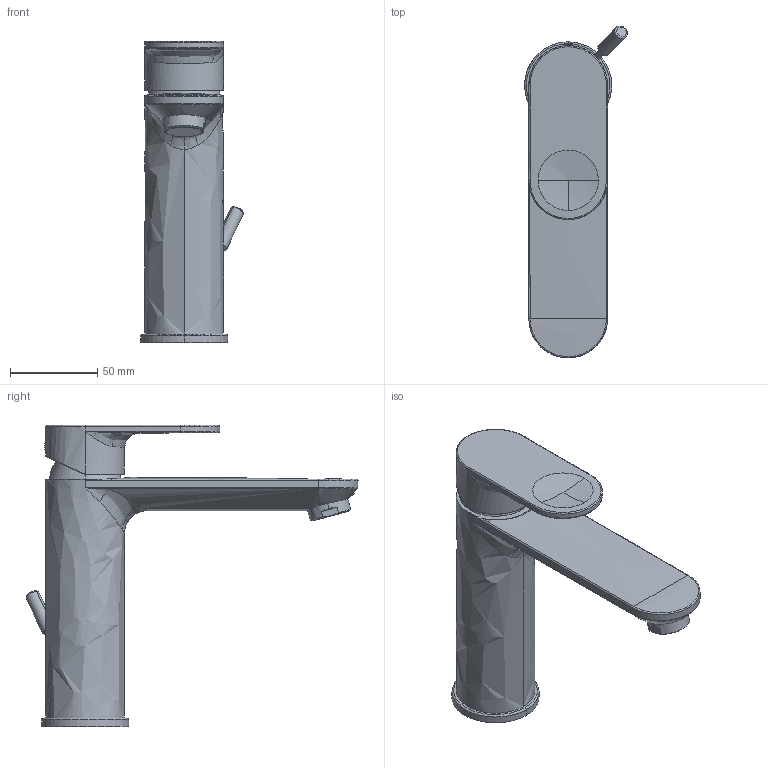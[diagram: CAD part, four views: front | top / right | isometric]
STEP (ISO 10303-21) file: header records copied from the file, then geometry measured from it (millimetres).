
FILE_DESCRIPTION(/* description */ (''),/* implementation_level */ '2;1');
FILE_NAME(/* name */ 'B31020001010_neu',/* time_stamp */ '2019-02-25T15:25:00+01:00',/* author */ (''),/* organization */ (''),/* preprocessor_version */ 'ST-DEVELOPER v15',/* originating_system */ '',/* authorisation */ '');
FILE_SCHEMA (('AUTOMOTIVE_DESIGN'));
Length unit declared in the file: millimetre
Products named in the file (1): Document
Bounding box: 58.65 x 189.78 x 172.35 mm (x, y, z)
Volume: 3738.6 mm3; surface area: 54228.8 mm2
Topology: 1 solids, 7 shells, 124 faces, 295 edges, 184 vertices
Faces by surface type: bspline 124
Entity records: 11824 total; most frequent: CARTESIAN_POINT 8254, B_SPLINE_CURVE_WITH_KNOTS 638, ORIENTED_EDGE 562, PCURVE 562, DEFINITIONAL_REPRESENTATION 562, SURFACE_CURVE 292, EDGE_CURVE 292, VERTEX_POINT 184
